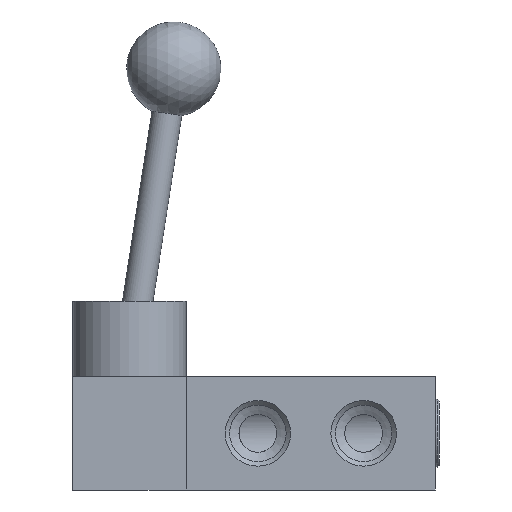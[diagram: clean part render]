
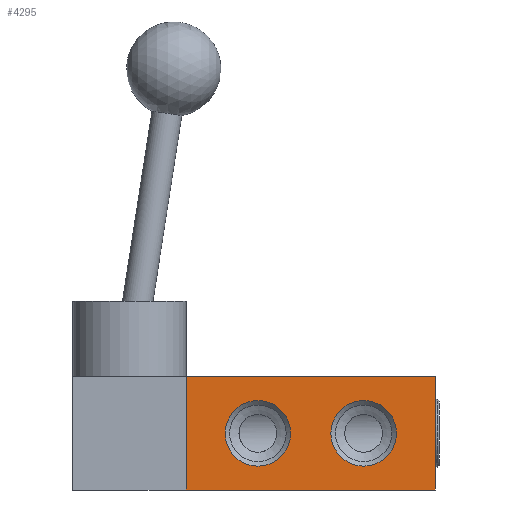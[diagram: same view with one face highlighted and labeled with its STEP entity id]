
A CAD part, front view. The second image highlights one B-rep face of the part: STEP entity #4295.
In plain terms, the highlighted planar face has unit normal (0, -1, 0).
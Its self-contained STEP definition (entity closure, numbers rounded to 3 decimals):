
#319=LINE('',#5937,#583);
#335=LINE('',#6102,#599);
#345=LINE('',#6293,#609);
#348=LINE('',#6299,#612);
#583=VECTOR('',#5103,1000.);
#599=VECTOR('',#5129,1000.);
#609=VECTOR('',#5195,1000.);
#612=VECTOR('',#5202,1000.);
#1160=ORIENTED_EDGE('',*,*,#1719,.T.);
#1161=ORIENTED_EDGE('',*,*,#1720,.T.);
#1162=ORIENTED_EDGE('',*,*,#1651,.T.);
#1163=ORIENTED_EDGE('',*,*,#1717,.T.);
#1164=ORIENTED_EDGE('',*,*,#1677,.F.);
#1165=ORIENTED_EDGE('',*,*,#1713,.F.);
#1651=EDGE_CURVE('',#1978,#1980,#319,.T.);
#1677=EDGE_CURVE('',#2006,#2007,#335,.T.);
#1713=EDGE_CURVE('',#1978,#2006,#345,.T.);
#1717=EDGE_CURVE('',#1980,#2007,#348,.T.);
#1719=EDGE_CURVE('',#2044,#2044,#2180,.F.);
#1720=EDGE_CURVE('',#2045,#2045,#2181,.F.);
#1978=VERTEX_POINT('',#5932);
#1980=VERTEX_POINT('',#5936);
#2006=VERTEX_POINT('',#6101);
#2007=VERTEX_POINT('',#6103);
#2044=VERTEX_POINT('',#6305);
#2045=VERTEX_POINT('',#6307);
#2180=CIRCLE('',#4570,8.675);
#2181=CIRCLE('',#4571,8.675);
#2372=EDGE_LOOP('',(#1160));
#2373=EDGE_LOOP('',(#1161));
#2374=EDGE_LOOP('',(#1162,#1163,#1164,#1165));
#2664=FACE_BOUND('',#2372,.T.);
#2665=FACE_BOUND('',#2373,.T.);
#2666=FACE_BOUND('',#2374,.T.);
#2865=PLANE('',#4569);
#4295=ADVANCED_FACE('',(#2664,#2665,#2666),#2865,.T.);
#4569=AXIS2_PLACEMENT_3D('',#6303,#5207,#5208);
#4570=AXIS2_PLACEMENT_3D('',#6304,#5209,#5210);
#4571=AXIS2_PLACEMENT_3D('',#6306,#5211,#5212);
#5103=DIRECTION('',(1.,0.,0.));
#5129=DIRECTION('',(1.,0.,0.));
#5195=DIRECTION('',(0.,0.,1.));
#5202=DIRECTION('',(0.,0.,1.));
#5207=DIRECTION('',(0.,-1.,0.));
#5208=DIRECTION('',(1.,0.,0.));
#5209=DIRECTION('',(0.,-1.,0.));
#5210=DIRECTION('',(0.,0.,-1.));
#5211=DIRECTION('',(0.,-1.,0.));
#5212=DIRECTION('',(0.,0.,-1.));
#5932=CARTESIAN_POINT('',(-66.,-25.,-15.));
#5936=CARTESIAN_POINT('',(0.,-25.,-15.));
#5937=CARTESIAN_POINT('',(-66.,-25.,-15.));
#6101=CARTESIAN_POINT('',(-66.,-25.,15.));
#6102=CARTESIAN_POINT('',(-66.,-25.,15.));
#6103=CARTESIAN_POINT('',(0.,-25.,15.));
#6293=CARTESIAN_POINT('',(-66.,-25.,-15.));
#6299=CARTESIAN_POINT('',(0.,-25.,-15.));
#6303=CARTESIAN_POINT('',(-66.,-25.,-15.));
#6304=CARTESIAN_POINT('',(-19.,-25.,0.));
#6305=CARTESIAN_POINT('',(-19.,-25.,-8.675));
#6306=CARTESIAN_POINT('',(-47.,-25.,0.));
#6307=CARTESIAN_POINT('',(-47.,-25.,-8.675));
